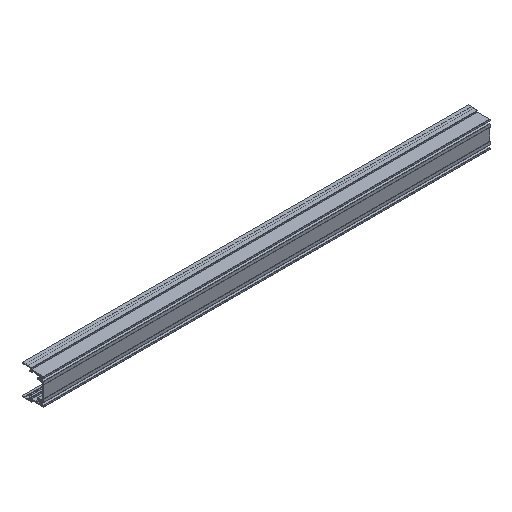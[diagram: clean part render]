
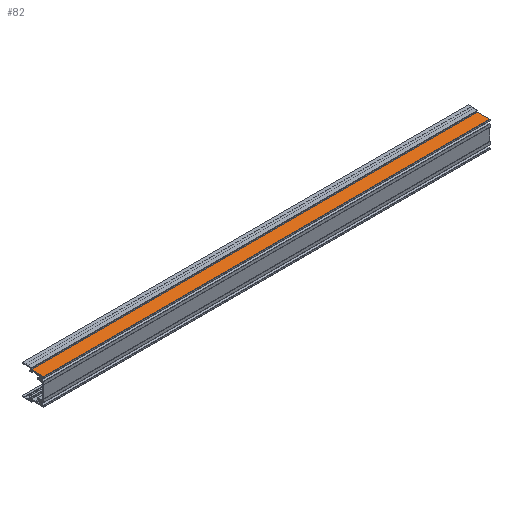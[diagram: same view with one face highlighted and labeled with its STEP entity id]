
A CAD part, isometric view. The second image highlights one B-rep face of the part: STEP entity #82.
In plain terms, the highlighted planar face has unit normal (0, 0, 1).
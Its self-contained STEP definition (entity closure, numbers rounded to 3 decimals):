
#82 = ADVANCED_FACE( '', ( #202 ), #203, .F. );
#202 = FACE_OUTER_BOUND( '', #426, .T. );
#203 = PLANE( '', #427 );
#426 = EDGE_LOOP( '', ( #791, #792, #793, #794 ) );
#427 = AXIS2_PLACEMENT_3D( '', #795, #796, #797 );
#791 = ORIENTED_EDGE( '', *, *, #1755, .T. );
#792 = ORIENTED_EDGE( '', *, *, #1756, .F. );
#793 = ORIENTED_EDGE( '', *, *, #1640, .F. );
#794 = ORIENTED_EDGE( '', *, *, #1754, .T. );
#795 = CARTESIAN_POINT( '', ( 540., 15.19, 16. ) );
#796 = DIRECTION( '', ( 0., 0., -1. ) );
#797 = DIRECTION( '', ( -1., 0., 0. ) );
#1640 = EDGE_CURVE( '', #1976, #1978, #1979, .T. );
#1754 = EDGE_CURVE( '', #1976, #2199, #2201, .T. );
#1755 = EDGE_CURVE( '', #2199, #2202, #2203, .T. );
#1756 = EDGE_CURVE( '', #1978, #2202, #2204, .T. );
#1976 = VERTEX_POINT( '', #2533 );
#1978 = VERTEX_POINT( '', #2536 );
#1979 = LINE( '', #2537, #2538 );
#2199 = VERTEX_POINT( '', #2827 );
#2201 = LINE( '', #2830, #2831 );
#2202 = VERTEX_POINT( '', #2832 );
#2203 = LINE( '', #2833, #2834 );
#2204 = LINE( '', #2835, #2836 );
#2533 = CARTESIAN_POINT( '', ( 540., 15.19, 16. ) );
#2536 = CARTESIAN_POINT( '', ( 540., 0.3, 16. ) );
#2537 = CARTESIAN_POINT( '', ( 540., 15.19, 16. ) );
#2538 = VECTOR( '', #3316, 1000. );
#2827 = CARTESIAN_POINT( '', ( 0., 15.19, 16. ) );
#2830 = CARTESIAN_POINT( '', ( 540., 15.19, 16. ) );
#2831 = VECTOR( '', #3516, 1000. );
#2832 = CARTESIAN_POINT( '', ( 0., 0.3, 16. ) );
#2833 = CARTESIAN_POINT( '', ( 0., 15.19, 16. ) );
#2834 = VECTOR( '', #3517, 1000. );
#2835 = CARTESIAN_POINT( '', ( 540., 0.3, 16. ) );
#2836 = VECTOR( '', #3518, 1000. );
#3316 = DIRECTION( '', ( 0., -1., 0. ) );
#3516 = DIRECTION( '', ( -1., 0., 0. ) );
#3517 = DIRECTION( '', ( 0., -1., 0. ) );
#3518 = DIRECTION( '', ( -1., 0., 0. ) );
